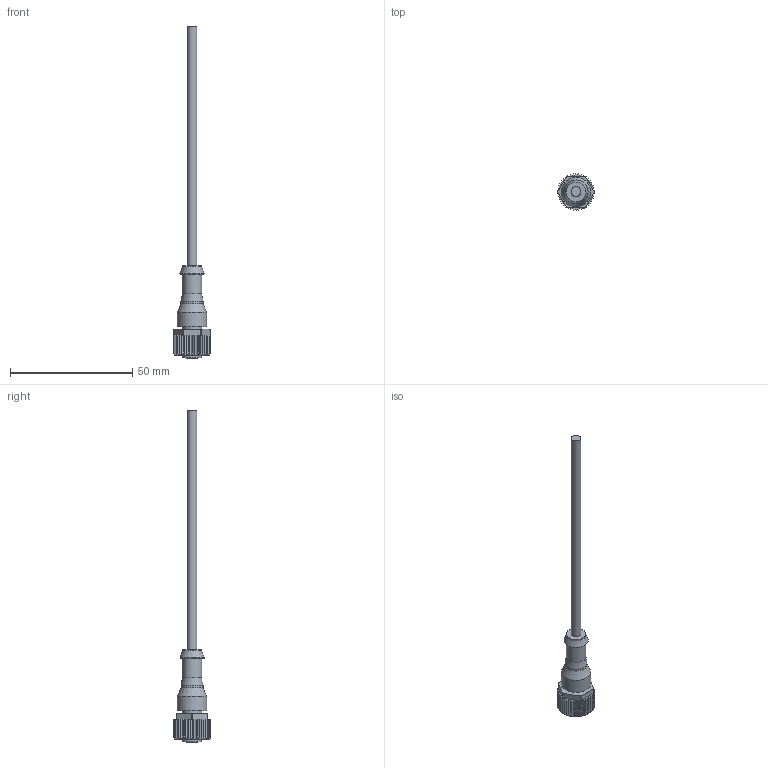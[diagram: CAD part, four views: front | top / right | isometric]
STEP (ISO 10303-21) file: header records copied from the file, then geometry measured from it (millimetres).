
FILE_DESCRIPTION(/* description */ (''),/* implementation_level */ '2;1');
FILE_NAME(/* name */ 'K14.00.stp',/* time_stamp */ '2020-02-10T14:47:31+01:00',/* author */ (''),/* organization */ (''),/* preprocessor_version */ 'ST-DEVELOPER v16',/* originating_system */ 'SIEMENS PLM Software NX 11.0',/* authorisation */ '');
FILE_SCHEMA (('AP203_CONFIGURATION_CONTROLLED_3D_DESIGN_OF_MECHANICAL_PARTS_AND_ASSEMBLIES_MIM_LF { 1 0 10303 403 2 1 2}'));
Length unit declared in the file: millimetre
Products named in the file (1): hi2n454CC6D1h6t4
Bounding box: 14.98 x 14.95 x 135.7 mm (x, y, z)
Volume: 4515.1 mm3; surface area: 3989.3 mm2
Topology: 2 solids, 2 shells, 328 faces, 814 edges, 506 vertices
Faces by surface type: plane 173, cylinder 108, cone 46, torus 1
Full cylindrical faces by diameter (mm): 1 x5, 1.2 x5, 4 x1, 8 x3, 9 x1, 10.5 x1, 10.891 x1, 12 x1
Entity records: 9689 total; most frequent: CARTESIAN_POINT 1876, DIRECTION 1625, ORIENTED_EDGE 1580, EDGE_CURVE 790, AXIS2_PLACEMENT_3D 590, VERTEX_POINT 505, LINE 445, VECTOR 445
